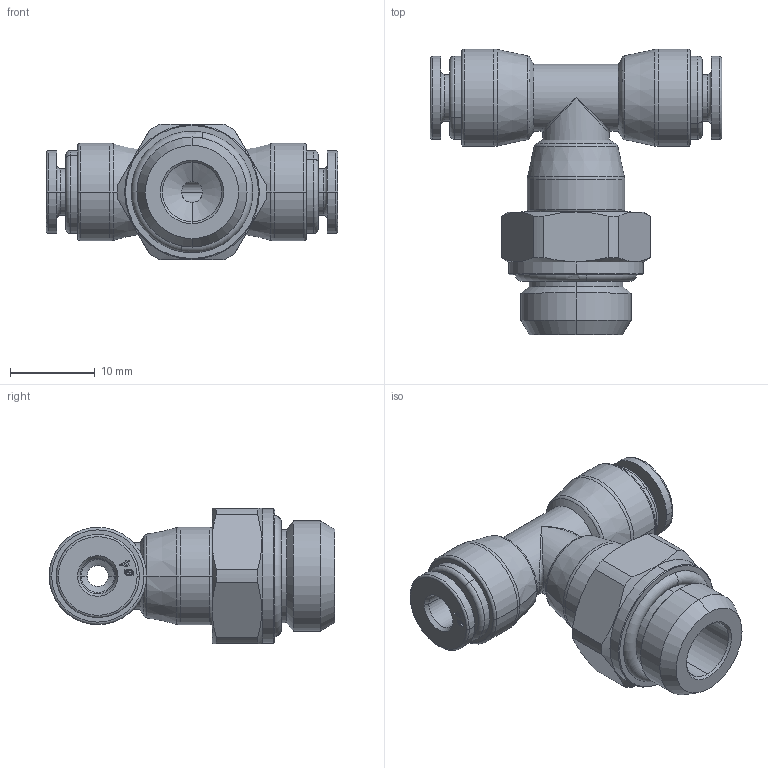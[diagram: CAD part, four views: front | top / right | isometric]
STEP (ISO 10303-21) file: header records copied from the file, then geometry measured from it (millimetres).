
FILE_DESCRIPTION (( 'STEP AP214' ), '1' );
FILE_NAME ('5321700005A.STEP', '2024-05-10T08:42:36', ( '' ), ( '' ), 'SwSTEP 2.0', 'SolidWorks 2020', '' );
FILE_SCHEMA (( 'AUTOMOTIVE_DESIGN' ));
Length unit declared in the file: millimetre
Products named in the file (1): 5321700005A
Bounding box: 34.4 x 33.75 x 16 mm (x, y, z)
Volume: 4888.3 mm3; surface area: 3567.7 mm2
Topology: 1 solids, 1 shells, 219 faces, 518 edges, 314 vertices
Faces by surface type: plane 71, cylinder 44, cone 38, torus 36, bspline 30
Entity records: 9803 total; most frequent: CARTESIAN_POINT 2478, ORIENTED_EDGE 1028, DIRECTION 988, EDGE_CURVE 514, AXIS2_PLACEMENT_3D 372, VERTEX_POINT 314, LINE 244, VECTOR 244
